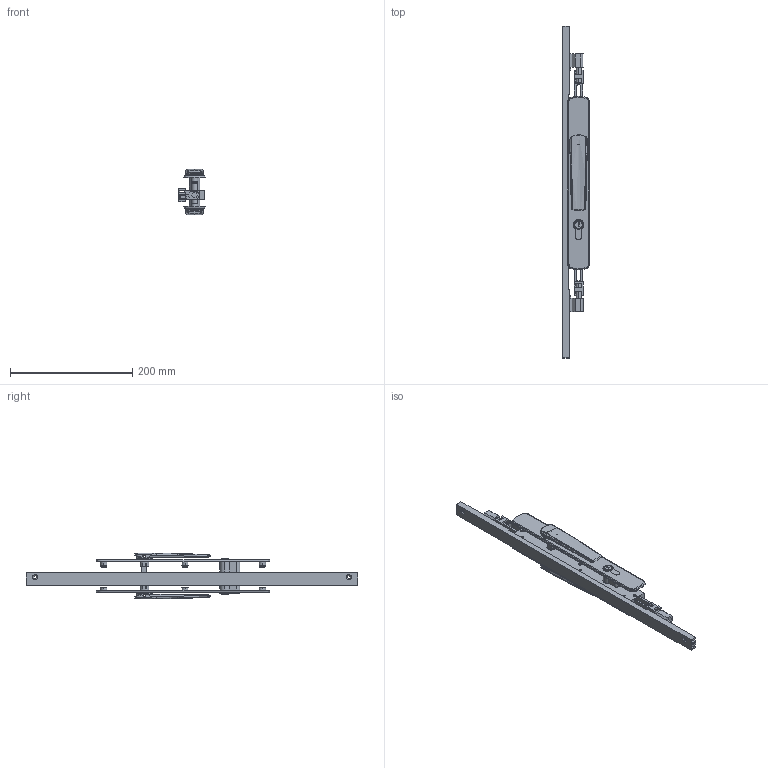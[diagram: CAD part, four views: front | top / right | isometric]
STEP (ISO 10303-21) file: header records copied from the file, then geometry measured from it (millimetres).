
FILE_DESCRIPTION (( 'STEP AP214' ), '1' );
FILE_NAME ('TPL-W-APC-613-L 28Oct2024.STEP', '2024-10-28T03:49:07', ( '' ), ( '' ), 'SwSTEP 2.0', 'SolidWorks 2023', '' );
FILE_SCHEMA (( 'AUTOMOTIVE_DESIGN' ));
Length unit declared in the file: millimetre
Products named in the file (24): Copy of COV-115-C Cover C suit TPLGen2 standard range AU^TPL-W-APC-113 18Oct2024; Copy of LKC-584 Pivot body zinc - simplified^Copy of TPGen2 handle keyed internal zinc - simplified_TPL-W-APC-113 18Oct2024; Copy of TPGen2 handle keyed external zinc - simplified^TPL-W-APC-113 18Oct2024_Vertical; Copy of LKC-586 Spindle square 8mm with M4 hole^Copy of TPGen2 handle keyed internal zinc - simplified_TPL-W-APC-113 18Oct2024_42mm; Copy of Copy of LKC-531 Lock twinpoint transmission rod wood system^TPL-W-APC-113 18Oct2024_Standard Range 2891.7mm; Copy of TPL-036 Lock cylinder double key C4 3-5 PIN 55 (23-32)mm^TPL-W-APC-113 18Oct2024_Left; Bolt.step; Copy of Copy of Copy of LKC-531 Lock twinpoint transmission rod wood system^TPL-W-APC-113 18Oct2024_Standard Range 2891.7mm; Copy of LKC-585 Rotator body zinc^Copy of TPGen2 handle keyed internal zinc - simplified_TPL-W-APC-113 18Oct2024; TPL-W-APC-613-L 28Oct2024; Copy of TPLGen2 lock body keyed assembly^TPL-W-APC-113 18Oct2024_Bolts extended; Copy of TPLGen2 push rod - simplified^Copy of TPLGen2 lock body keyed assembly_TPL-W-APC-113 18Oct2024_Female thread M10; Copy of COV-115-B Cover B suit TPLGen2 standard range AU with hinge holes^TPL-W-APC-113 18Oct2024_2870mm; Copy of LKC-585 Rotator body zinc^Copy of TPGen2 handle keyed external zinc - simplified_TPL-W-APC-113 18Oct2024; Copy of COV-115-A Cover A suit TPLGen2 standard range AU with hinge holes^TPL-W-APC-113 18Oct2024_2870mm; Copy of TPLGen2 lock body keyed^Copy of TPLGen2 lock body keyed assembly_TPL-W-APC-113 18Oct2024; Copy of Adapter D - simplfied^TPL-W-APC-113 18Oct2024; Copy of Adapter C - simplfied^TPL-W-APC-113 18Oct2024; Copy of TPGen2 handle keyed internal zinc - simplified^TPL-W-APC-113 18Oct2024_Vertical; Copy of LKC-514 Escutcheon plate keyed external 285mm long zinc - simplified^Copy of TPGen2 handle keyed external zinc - simplified_TPL-W-APC-113 18Oct2024; Copy of LKC-505 Swing handle zinc - simplified^Copy of TPGen2 handle keyed external zinc - simplified_TPL-W-APC-113 18Oct2024; Copy of LKC-505 Swing handle zinc - simplified^Copy of TPGen2 handle keyed internal zinc - simplified_TPL-W-APC-113 18Oct2024; Copy of LKC-584 Pivot body zinc - simplified^Copy of TPGen2 handle keyed external zinc - simplified_TPL-W-APC-113 18Oct2024; Copy of LKC-512 Escutcheon plate keyed internal 285mm long zinc - simplified^Copy of TPGen2 handle keyed internal zinc - simplified_TPL-W-APC-113 18Oct2024
Assembly tree (21 placements, depth 3):
  Bolt.step
  TPL-W-APC-613-L 28Oct2024
    Copy of TPLGen2 lock body keyed assembly^TPL-W-APC-113 18Oct2024_Bolts extended
      Copy of TPLGen2 lock body keyed^Copy of TPLGen2 lock body keyed assembly_TPL-W-APC-113 18Oct2024
      Copy of TPLGen2 push rod - simplified^Copy of TPLGen2 lock body keyed assembly_TPL-W-APC-113 18Oct2024_Female thread M10  x2
    Copy of TPGen2 handle keyed internal zinc - simplified^TPL-W-APC-113 18Oct2024_Vertical
      Copy of LKC-512 Escutcheon plate keyed internal 285mm long zinc - simplified^Copy of TPGen2 handle keyed internal zinc - simplified_TPL-W-APC-113 18Oct2024
      Copy of LKC-505 Swing handle zinc - simplified^Copy of TPGen2 handle keyed internal zinc - simplified_TPL-W-APC-113 18Oct2024
      Copy of LKC-585 Rotator body zinc^Copy of TPGen2 handle keyed internal zinc - simplified_TPL-W-APC-113 18Oct2024
      Copy of LKC-586 Spindle square 8mm with M4 hole^Copy of TPGen2 handle keyed internal zinc - simplified_TPL-W-APC-113 18Oct2024_42mm
      Copy of LKC-584 Pivot body zinc - simplified^Copy of TPGen2 handle keyed internal zinc - simplified_TPL-W-APC-113 18Oct2024
    Copy of TPGen2 handle keyed external zinc - simplified^TPL-W-APC-113 18Oct2024_Vertical
      Copy of LKC-514 Escutcheon plate keyed external 285mm long zinc - simplified^Copy of TPGen2 handle keyed external zinc - simplified_TPL-W-APC-113 18Oct2024
      Copy of LKC-505 Swing handle zinc - simplified^Copy of TPGen2 handle keyed external zinc - simplified_TPL-W-APC-113 18Oct2024
      Copy of LKC-585 Rotator body zinc^Copy of TPGen2 handle keyed external zinc - simplified_TPL-W-APC-113 18Oct2024
      Copy of LKC-584 Pivot body zinc - simplified^Copy of TPGen2 handle keyed external zinc - simplified_TPL-W-APC-113 18Oct2024
    Copy of TPL-036 Lock cylinder double key C4 3-5 PIN 55 (23-32)mm^TPL-W-APC-113 18Oct2024_Left
    Copy of COV-115-C Cover C suit TPLGen2 standard range AU^TPL-W-APC-113 18Oct2024
    Copy of Copy of LKC-531 Lock twinpoint transmission rod wood system^TPL-W-APC-113 18Oct2024_Standard Range 2891.7mm
    Copy of Copy of Copy of LKC-531 Lock twinpoint transmission rod wood system^TPL-W-APC-113 18Oct2024_Standard Range 2891.7mm
    Copy of Adapter C - simplfied^TPL-W-APC-113 18Oct2024
    Copy of Adapter D - simplfied^TPL-W-APC-113 18Oct2024
  Copy of COV-115-B Cover B suit TPLGen2 standard range AU with hinge holes^TPL-W-APC-113 18Oct2024_2870mm
  Copy of COV-115-A Cover A suit TPLGen2 standard range AU with hinge holes^TPL-W-APC-113 18Oct2024_2870mm
Bounding box: 43.5 x 544 x 74.92 mm (x, y, z)
Volume: 343539.8 mm3; surface area: 169302.1 mm2
Topology: 18 solids, 18 shells, 1379 faces, 3347 edges, 2046 vertices
Faces by surface type: bspline 417, plane 387, cylinder 329, cone 132, torus 98, sphere 16
Entity records: 51947 total; most frequent: CARTESIAN_POINT 22750, ORIENTED_EDGE 6498, DIRECTION 5259, EDGE_CURVE 3249, AXIS2_PLACEMENT_3D 2039, VERTEX_POINT 1986, EDGE_LOOP 1477, FACE_OUTER_BOUND 1344
